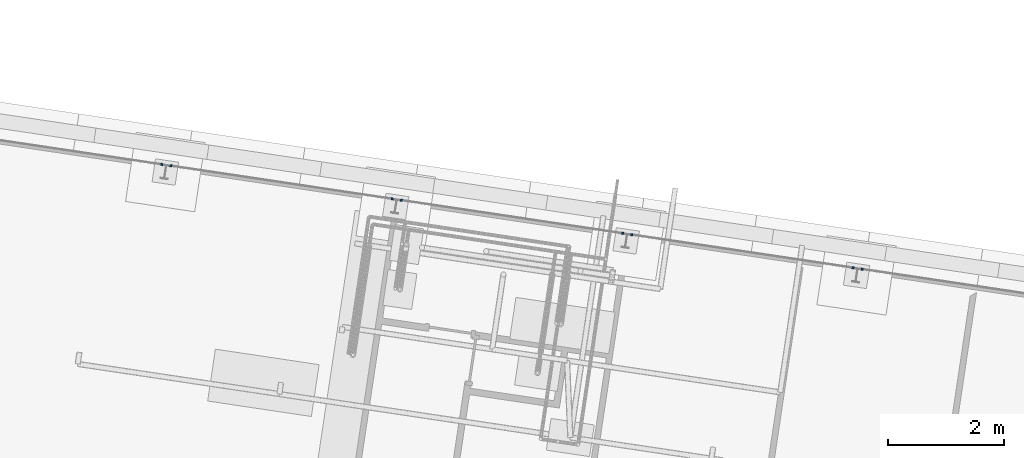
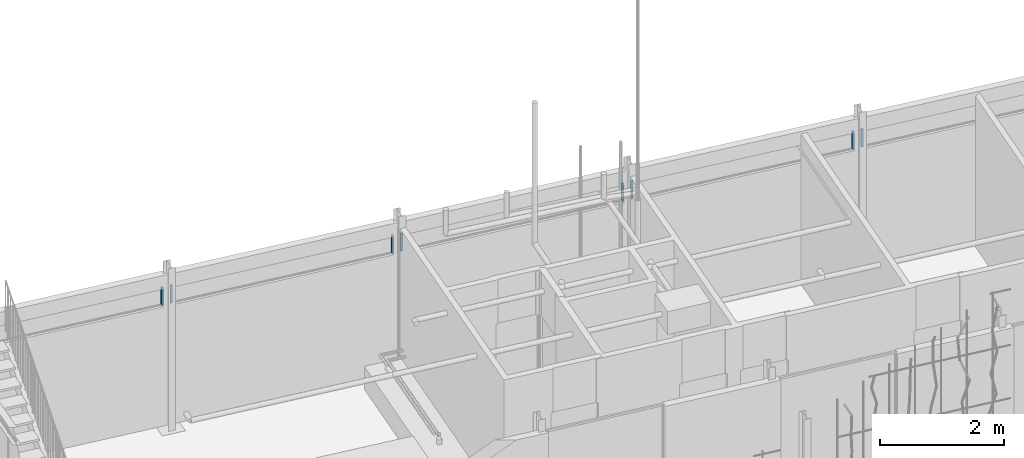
# One storey, part 117 of 142: 8 members.
"""IFC4 building model written with IfcOpenShell, lengths in metres."""

from ifc_helpers import new_model, si_unit, direction, frame, origin_with_axes, place, context, subcontext, project, spatial, rectangle, extrude, material, material_profile, profile_set, profile_usage, type_object, element, save


model = new_model("IFC4")

# Units and contexts
model_context = context("Model", 3, precision=1e-05, world=origin_with_axes(), true_north=direction((0.0, 1.0)))
body_context = subcontext(model_context, "Body", "Model", "MODEL_VIEW")
ifc_project = project(units=[si_unit("VOLUMEUNIT", "CUBIC_METRE"), si_unit("LENGTHUNIT", "METRE"), si_unit("AREAUNIT", "SQUARE_METRE")], contexts=[model_context])

# Site, building, storey
site_placement = place(None, origin_with_axes())
site = spatial("IfcSite", under=ifc_project, at=site_placement, Name="Lares · Rua das Mercês · artigo 4771")
building_placement = place(site_placement, frame((12.0, 10.2, 13.9), z_axis=(0.0, 0.0, 1.0), x_axis=(0.989015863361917, -0.147809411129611, 0.0)))
building = spatial("IfcBuilding", under=site, at=building_placement, Name="Casa Sobreposta")
storey_placement = place(building_placement, origin_with_axes())
storey = spatial("IfcBuildingStorey", under=building, at=storey_placement, Name="00 · Habitação e estacionamento", Elevation=13.9)

# Members
ifc_material = material(Name="Aço pintado / Stahl lackiert", Category="steel")
ifc_material_profile = material_profile(ifc_material, rectangle(XDim=0.035, YDim=0.035))
ifc_profile_set = profile_set([ifc_material_profile], Name="R0.035")
ifc_profile_usage_1 = profile_usage(ifc_profile_set)
member_type = type_object("IfcMemberType", Name="R0.035 / steel", PredefinedType="NOTDEFINED", material=ifc_profile_set)
member_1_placement = place(storey_placement, frame((3.92, 6.4, 2.35), z_axis=(0.0, 0.0, 1.0), x_axis=(1.0, 0.0, 0.0)))
element("IfcMember", 1, at=member_1_placement, inside=storey, type_object=member_type, material=ifc_profile_usage_1, Name="Rasgo norte 1 · montante", context=body_context, shape_type="SweptSolid", body=[
    extrude(rectangle(XDim=0.035, YDim=0.035), origin_with_axes(), (0.0, 0.0, 1.0), 0.35),
])
ifc_profile_usage_2 = profile_usage(ifc_profile_set)
member_2_placement = place(storey_placement, frame((4.08, 6.4, 2.35), z_axis=(0.0, 0.0, 1.0), x_axis=(1.0, 0.0, 0.0)))
element("IfcMember", 2, at=member_2_placement, inside=storey, type_object=member_type, material=ifc_profile_usage_2, Name="Rasgo norte 2 · montante", context=body_context, shape_type="SweptSolid", body=[
    extrude(rectangle(XDim=0.035, YDim=0.035), origin_with_axes(), (0.0, 0.0, 1.0), 0.35),
])
ifc_profile_usage_3 = profile_usage(ifc_profile_set)
member_3_placement = place(storey_placement, frame((7.92, 6.4, 2.35), z_axis=(0.0, 0.0, 1.0), x_axis=(1.0, 0.0, 0.0)))
element("IfcMember", 3, at=member_3_placement, inside=storey, type_object=member_type, material=ifc_profile_usage_3, Name="Rasgo norte 2 · montante", context=body_context, shape_type="SweptSolid", body=[
    extrude(rectangle(XDim=0.035, YDim=0.035), origin_with_axes(), (0.0, 0.0, 1.0), 0.35),
])
ifc_profile_usage_4 = profile_usage(ifc_profile_set)
member_4_placement = place(storey_placement, frame((8.08, 6.4, 2.35), z_axis=(0.0, 0.0, 1.0), x_axis=(1.0, 0.0, 0.0)))
element("IfcMember", 4, at=member_4_placement, inside=storey, type_object=member_type, material=ifc_profile_usage_4, Name="Rasgo norte 3 · montante", context=body_context, shape_type="SweptSolid", body=[
    extrude(rectangle(XDim=0.035, YDim=0.035), origin_with_axes(), (0.0, 0.0, 1.0), 0.35),
])
ifc_profile_usage_5 = profile_usage(ifc_profile_set)
member_5_placement = place(storey_placement, frame((11.92, 6.4, 2.35), z_axis=(0.0, 0.0, 1.0), x_axis=(1.0, 0.0, 0.0)))
element("IfcMember", 5, at=member_5_placement, inside=storey, type_object=member_type, material=ifc_profile_usage_5, Name="Rasgo norte 3 · montante", context=body_context, shape_type="SweptSolid", body=[
    extrude(rectangle(XDim=0.035, YDim=0.035), origin_with_axes(), (0.0, 0.0, 1.0), 0.35),
])
ifc_profile_usage_6 = profile_usage(ifc_profile_set)
member_6_placement = place(storey_placement, frame((12.08, 6.4, 2.35), z_axis=(0.0, 0.0, 1.0), x_axis=(1.0, 0.0, 0.0)))
element("IfcMember", 6, at=member_6_placement, inside=storey, type_object=member_type, material=ifc_profile_usage_6, Name="Rasgo norte 4 · montante", context=body_context, shape_type="SweptSolid", body=[
    extrude(rectangle(XDim=0.035, YDim=0.035), origin_with_axes(), (0.0, 0.0, 1.0), 0.35),
])
ifc_profile_usage_7 = profile_usage(ifc_profile_set)
member_7_placement = place(storey_placement, frame((15.92, 6.4, 2.35), z_axis=(0.0, 0.0, 1.0), x_axis=(1.0, 0.0, 0.0)))
element("IfcMember", 7, at=member_7_placement, inside=storey, type_object=member_type, material=ifc_profile_usage_7, Name="Rasgo norte 4 · montante", context=body_context, shape_type="SweptSolid", body=[
    extrude(rectangle(XDim=0.035, YDim=0.035), origin_with_axes(), (0.0, 0.0, 1.0), 0.35),
])
ifc_profile_usage_8 = profile_usage(ifc_profile_set)
member_8_placement = place(storey_placement, frame((16.08, 6.4, 2.35), z_axis=(0.0, 0.0, 1.0), x_axis=(1.0, 0.0, 0.0)))
element("IfcMember", 8, at=member_8_placement, inside=storey, type_object=member_type, material=ifc_profile_usage_8, Name="Rasgo norte 5 · montante", context=body_context, shape_type="SweptSolid", body=[
    extrude(rectangle(XDim=0.035, YDim=0.035), origin_with_axes(), (0.0, 0.0, 1.0), 0.35),
])

save(model, "model.ifc")
